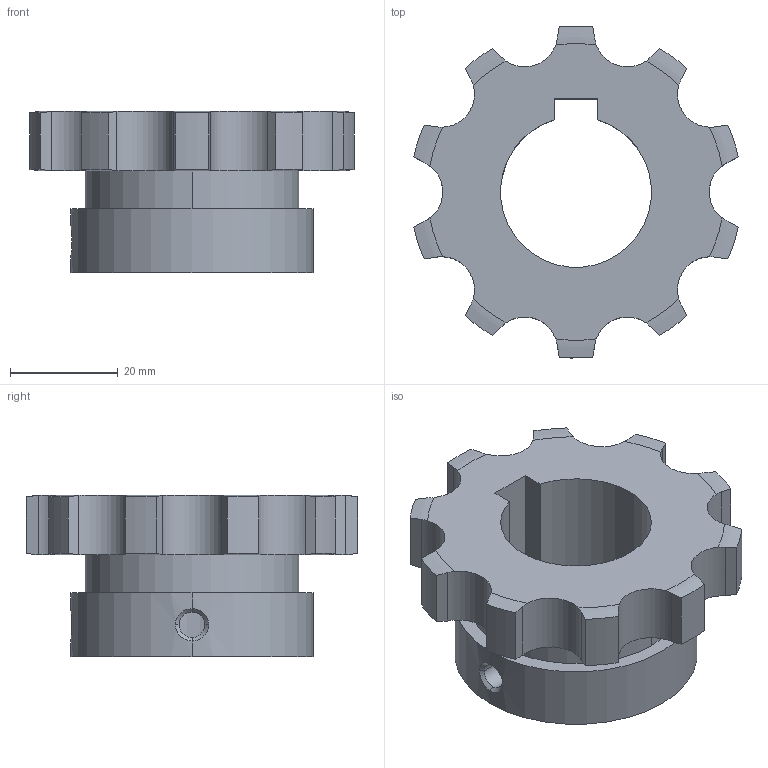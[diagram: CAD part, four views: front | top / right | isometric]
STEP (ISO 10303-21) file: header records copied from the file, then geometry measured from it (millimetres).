
FILE_DESCRIPTION((''),'2;1');
FILE_NAME('510-401-2810_PRT','2021-02-13T',('Brieden'),('Brieden'),'PRO/ENGINEER BY PARAMETRIC TECHNOLOGY CORPORATION, 2010160','PRO/ENGINEER BY PARAMETRIC TECHNOLOGY CORPORATION, 2010160','');
FILE_SCHEMA(('AUTOMOTIVE_DESIGN { 1 0 10303 214 1 1 1 1 }'));
Length unit declared in the file: millimetre
Products named in the file (1): 510-401-2810_PRT
Bounding box: 60.24 x 61.61 x 30 mm (x, y, z)
Volume: 34815.6 mm3; surface area: 12454.5 mm2
Topology: 1 solids, 1 shells, 82 faces, 231 edges, 152 vertices
Faces by surface type: cylinder 49, torus 20, plane 7, bspline 6
Entity records: 4118 total; most frequent: CARTESIAN_POINT 1358, ORIENTED_EDGE 462, DIRECTION 361, PRESENTATION_STYLE_ASSIGNMENT 232, STYLED_ITEM 232, CURVE_STYLE 231, EDGE_CURVE 231, VERTEX_POINT 152
